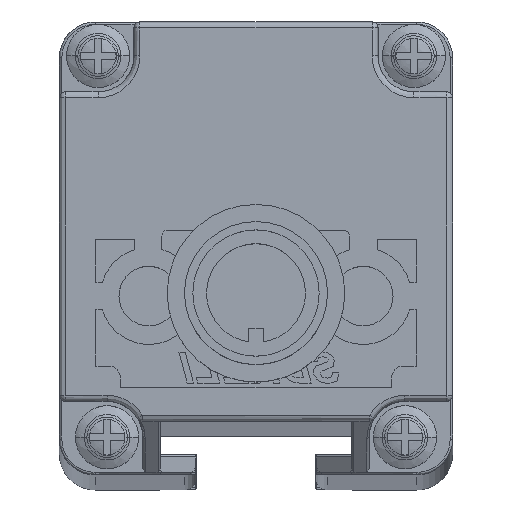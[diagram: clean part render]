
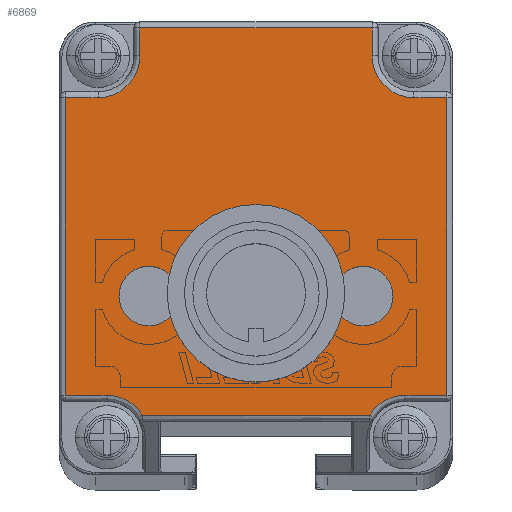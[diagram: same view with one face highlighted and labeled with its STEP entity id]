
A CAD part, top view. The second image highlights one B-rep face of the part: STEP entity #6869.
In plain terms, the highlighted planar face has unit normal (0, 0, 1).
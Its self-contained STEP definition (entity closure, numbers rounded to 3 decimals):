
#2781=CARTESIAN_POINT('',(0.65,-8.054,
605.276));
#2782=DIRECTION('',(0.,0.,1.));
#2783=DIRECTION('',(1.,0.,0.));
#2784=AXIS2_PLACEMENT_3D('',#2781,#2782,#2783);
#2786=CARTESIAN_POINT('',(0.65,-8.054,
605.276));
#2787=DIRECTION('',(0.,0.,1.));
#2788=DIRECTION('',(-1.,0.,0.));
#2789=AXIS2_PLACEMENT_3D('',#2786,#2787,#2788);
#2791=CARTESIAN_POINT('',(9.65,-8.055,605.276));
#2792=DIRECTION('',(0.,0.,1.));
#2793=DIRECTION('',(1.,-0.007,0.));
#2794=AXIS2_PLACEMENT_3D('',#2791,#2792,#2793);
#2796=CARTESIAN_POINT('',(9.65,-8.055,605.276));
#2797=DIRECTION('',(0.,0.,1.));
#2798=DIRECTION('',(-1.,0.007,0.));
#2799=AXIS2_PLACEMENT_3D('',#2796,#2797,#2798);
#2801=CARTESIAN_POINT('',(-8.35,-8.054,
605.276));
#2802=DIRECTION('',(0.,0.,1.));
#2803=DIRECTION('',(1.,0.007,0.));
#2804=AXIS2_PLACEMENT_3D('',#2801,#2802,#2803);
#2806=CARTESIAN_POINT('',(-8.35,-8.054,
605.276));
#2807=DIRECTION('',(0.,0.,1.));
#2808=DIRECTION('',(-1.,-0.007,0.));
#2809=AXIS2_PLACEMENT_3D('',#2806,#2807,#2808);
#2811=CARTESIAN_POINT('',(-11.85,-19.904,
605.276));
#2812=DIRECTION('',(0.,0.,1.));
#2813=DIRECTION('',(0.849,0.528,0.));
#2814=AXIS2_PLACEMENT_3D('',#2811,#2812,#2813);
#2816=CARTESIAN_POINT('',(-12.6,12.094,605.276));
#2817=DIRECTION('',(0.,0.,1.));
#2818=DIRECTION('',(0.,-1.,0.));
#2819=AXIS2_PLACEMENT_3D('',#2816,#2817,#2818);
#2821=CARTESIAN_POINT('',(13.9,12.094,605.276));
#2822=DIRECTION('',(0.,0.,1.));
#2823=DIRECTION('',(-1.,0.,0.));
#2824=AXIS2_PLACEMENT_3D('',#2821,#2822,#2823);
#2826=CARTESIAN_POINT('',(13.15,-19.904,605.276));
#2827=DIRECTION('',(0.,0.,1.));
#2828=DIRECTION('',(0.,1.,0.));
#2829=AXIS2_PLACEMENT_3D('',#2826,#2827,#2828);
#4545=DIRECTION('',(1.,0.,0.));
#4546=VECTOR('',#4545,19.056);
#4547=CARTESIAN_POINT('',(-8.878,-18.056,
605.276));
#4548=LINE('',#4547,#4546);
#4928=DIRECTION('',(0.,1.,0.));
#4929=VECTOR('',#4928,24.998);
#4930=CARTESIAN_POINT('',(16.65,-16.404,605.276));
#4931=LINE('',#4930,#4929);
#4951=DIRECTION('',(1.,0.,0.));
#4952=VECTOR('',#4951,3.5);
#4953=CARTESIAN_POINT('',(13.15,-16.404,605.276));
#4954=LINE('',#4953,#4952);
#4975=DIRECTION('',(-1.,0.,0.));
#4976=VECTOR('',#4975,2.75);
#4977=CARTESIAN_POINT('',(16.65,8.594,605.276));
#4978=LINE('',#4977,#4976);
#5002=DIRECTION('',(0.,1.,0.));
#5003=VECTOR('',#5002,2.35);
#5004=CARTESIAN_POINT('',(10.4,12.094,605.276));
#5005=LINE('',#5004,#5003);
#5213=DIRECTION('',(-1.,0.,0.));
#5214=VECTOR('',#5213,19.5);
#5215=CARTESIAN_POINT('',(10.4,14.444,605.276));
#5216=LINE('',#5215,#5214);
#5252=DIRECTION('',(0.,-1.,0.));
#5253=VECTOR('',#5252,2.35);
#5254=CARTESIAN_POINT('',(-9.1,14.444,605.276));
#5255=LINE('',#5254,#5253);
#5279=DIRECTION('',(-1.,0.,0.));
#5280=VECTOR('',#5279,2.75);
#5281=CARTESIAN_POINT('',(-12.6,8.594,605.276));
#5282=LINE('',#5281,#5280);
#5450=DIRECTION('',(0.,-1.,0.));
#5451=VECTOR('',#5450,24.998);
#5452=CARTESIAN_POINT('',(-15.35,8.594,605.276));
#5453=LINE('',#5452,#5451);
#5489=DIRECTION('',(1.,0.,0.));
#5490=VECTOR('',#5489,3.5);
#5491=CARTESIAN_POINT('',(-15.35,-16.404,
605.276));
#5492=LINE('',#5491,#5490);
#5953=CARTESIAN_POINT('',(12.15,-8.072,605.276));
#5954=VERTEX_POINT('',#5953);
#5955=CARTESIAN_POINT('',(7.15,-8.039,605.276));
#5956=VERTEX_POINT('',#5955);
#5957=CARTESIAN_POINT('',(-8.878,-18.056,
605.276));
#5958=CARTESIAN_POINT('',(-11.85,-16.404,
605.276));
#5959=VERTEX_POINT('',#5957);
#5960=VERTEX_POINT('',#5958);
#5961=CARTESIAN_POINT('',(-15.35,-16.404,
605.276));
#5962=VERTEX_POINT('',#5961);
#5963=CARTESIAN_POINT('',(-15.35,8.594,605.276));
#5964=VERTEX_POINT('',#5963);
#5965=CARTESIAN_POINT('',(-12.6,8.594,605.276));
#5966=VERTEX_POINT('',#5965);
#5967=CARTESIAN_POINT('',(-9.1,12.094,605.276));
#5968=VERTEX_POINT('',#5967);
#5969=CARTESIAN_POINT('',(-9.1,14.444,605.276));
#5970=VERTEX_POINT('',#5969);
#5971=CARTESIAN_POINT('',(10.4,14.444,605.276));
#5972=VERTEX_POINT('',#5971);
#5973=CARTESIAN_POINT('',(10.4,12.094,605.276));
#5974=VERTEX_POINT('',#5973);
#5975=CARTESIAN_POINT('',(13.9,8.594,605.276));
#5976=VERTEX_POINT('',#5975);
#5977=CARTESIAN_POINT('',(16.65,8.594,605.276));
#5978=VERTEX_POINT('',#5977);
#5979=CARTESIAN_POINT('',(16.65,-16.404,605.276));
#5980=VERTEX_POINT('',#5979);
#5981=CARTESIAN_POINT('',(13.15,-16.404,605.276));
#5982=VERTEX_POINT('',#5981);
#5983=CARTESIAN_POINT('',(10.178,-18.056,605.276));
#5984=VERTEX_POINT('',#5983);
#5985=CARTESIAN_POINT('',(-5.85,-8.037,
605.276));
#5986=CARTESIAN_POINT('',(-10.85,-8.07,
605.276));
#5987=VERTEX_POINT('',#5985);
#5988=VERTEX_POINT('',#5986);
#5989=CARTESIAN_POINT('',(3.65,-8.054,605.276));
#5990=CARTESIAN_POINT('',(-2.35,-8.054,
605.276));
#5991=VERTEX_POINT('',#5989);
#5992=VERTEX_POINT('',#5990);
#6818=CARTESIAN_POINT('',(0.65,0.944,
605.276));
#6819=DIRECTION('',(0.,0.,1.));
#6820=DIRECTION('',(1.,0.,0.));
#6821=AXIS2_PLACEMENT_3D('',#6818,#6819,#6820);
#6822=PLANE('',#6821);
#6824=ORIENTED_EDGE('',*,*,#6823,.T.);
#6826=ORIENTED_EDGE('',*,*,#6825,.F.);
#6828=ORIENTED_EDGE('',*,*,#6827,.F.);
#6830=ORIENTED_EDGE('',*,*,#6829,.F.);
#6832=ORIENTED_EDGE('',*,*,#6831,.T.);
#6834=ORIENTED_EDGE('',*,*,#6833,.F.);
#6836=ORIENTED_EDGE('',*,*,#6835,.F.);
#6838=ORIENTED_EDGE('',*,*,#6837,.F.);
#6840=ORIENTED_EDGE('',*,*,#6839,.T.);
#6842=ORIENTED_EDGE('',*,*,#6841,.F.);
#6844=ORIENTED_EDGE('',*,*,#6843,.F.);
#6846=ORIENTED_EDGE('',*,*,#6845,.F.);
#6848=ORIENTED_EDGE('',*,*,#6847,.T.);
#6850=ORIENTED_EDGE('',*,*,#6849,.F.);
#6851=EDGE_LOOP('',(#6824,#6826,#6828,#6830,#6832,#6834,#6836,#6838,#6840,#6842,
#6844,#6846,#6848,#6850));
#6852=FACE_OUTER_BOUND('',#6851,.F.);
#6853=ORIENTED_EDGE('',*,*,#6805,.T.);
#6854=ORIENTED_EDGE('',*,*,#6766,.T.);
#6855=EDGE_LOOP('',(#6853,#6854));
#6856=FACE_BOUND('',#6855,.F.);
#6858=ORIENTED_EDGE('',*,*,#6857,.T.);
#6860=ORIENTED_EDGE('',*,*,#6859,.T.);
#6861=EDGE_LOOP('',(#6858,#6860));
#6862=FACE_BOUND('',#6861,.F.);
#6864=ORIENTED_EDGE('',*,*,#6863,.T.);
#6866=ORIENTED_EDGE('',*,*,#6865,.T.);
#6867=EDGE_LOOP('',(#6864,#6866));
#6868=FACE_BOUND('',#6867,.F.);
#2785=CIRCLE('',#2784,3.);
#2790=CIRCLE('',#2789,3.);
#2795=CIRCLE('',#2794,2.5);
#2800=CIRCLE('',#2799,2.5);
#2805=CIRCLE('',#2804,2.5);
#2810=CIRCLE('',#2809,2.5);
#2815=CIRCLE('',#2814,3.5);
#2820=CIRCLE('',#2819,3.5);
#2825=CIRCLE('',#2824,3.5);
#2830=CIRCLE('',#2829,3.5);
#6766=EDGE_CURVE('',#5956,#5954,#2800,.T.);
#6805=EDGE_CURVE('',#5954,#5956,#2795,.T.);
#6823=EDGE_CURVE('',#5959,#5960,#2815,.T.);
#6825=EDGE_CURVE('',#5962,#5960,#5492,.T.);
#6827=EDGE_CURVE('',#5964,#5962,#5453,.T.);
#6829=EDGE_CURVE('',#5966,#5964,#5282,.T.);
#6831=EDGE_CURVE('',#5966,#5968,#2820,.T.);
#6833=EDGE_CURVE('',#5970,#5968,#5255,.T.);
#6835=EDGE_CURVE('',#5972,#5970,#5216,.T.);
#6837=EDGE_CURVE('',#5974,#5972,#5005,.T.);
#6839=EDGE_CURVE('',#5974,#5976,#2825,.T.);
#6841=EDGE_CURVE('',#5978,#5976,#4978,.T.);
#6843=EDGE_CURVE('',#5980,#5978,#4931,.T.);
#6845=EDGE_CURVE('',#5982,#5980,#4954,.T.);
#6847=EDGE_CURVE('',#5982,#5984,#2830,.T.);
#6849=EDGE_CURVE('',#5959,#5984,#4548,.T.);
#6857=EDGE_CURVE('',#5987,#5988,#2805,.T.);
#6859=EDGE_CURVE('',#5988,#5987,#2810,.T.);
#6863=EDGE_CURVE('',#5991,#5992,#2785,.T.);
#6865=EDGE_CURVE('',#5992,#5991,#2790,.T.);
#6869=ADVANCED_FACE('',(#6852,#6856,#6862,#6868),#6822,.T.);
